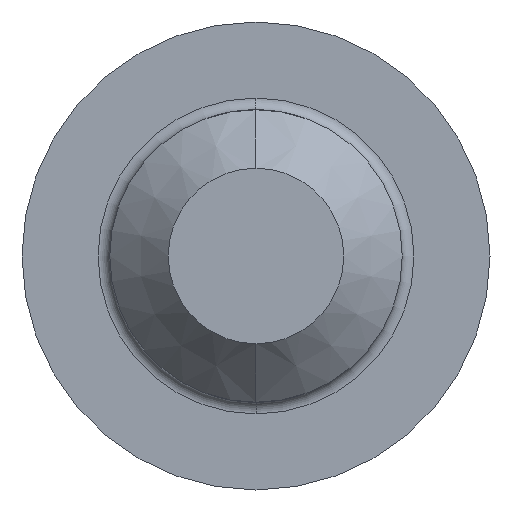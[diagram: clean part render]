
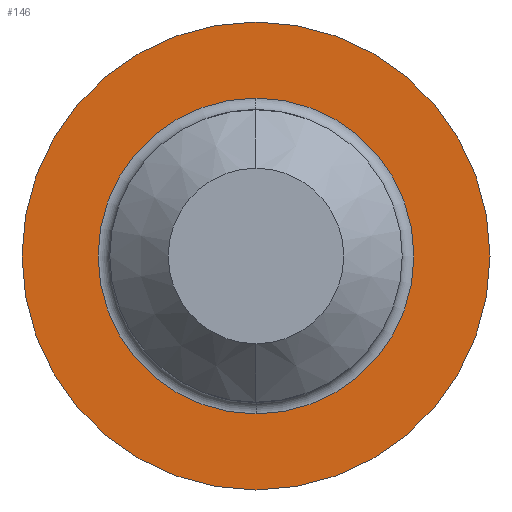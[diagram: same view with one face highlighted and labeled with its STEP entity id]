
A CAD part, left-side view. The second image highlights one B-rep face of the part: STEP entity #146.
In plain terms, the highlighted planar face has unit normal (-1, 0, 0).
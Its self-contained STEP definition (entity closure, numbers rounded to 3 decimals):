
#18 = EDGE_CURVE ( 'NONE', #91, #98, #155, .T. ) ;
#30 = EDGE_LOOP ( 'NONE', ( #50, #139 ) ) ;
#47 = EDGE_LOOP ( 'NONE', ( #68, #147 ) ) ;
#50 = ORIENTED_EDGE ( 'NONE', *, *, #151, .T. ) ;
#67 = VERTEX_POINT ( 'NONE', #363 ) ;
#68 = ORIENTED_EDGE ( 'NONE', *, *, #148, .T. ) ;
#91 = VERTEX_POINT ( 'NONE', #315 ) ;
#98 = VERTEX_POINT ( 'NONE', #299 ) ;
#132 = EDGE_CURVE ( 'NONE', #67, #150, #460, .T. ) ;
#139 = ORIENTED_EDGE ( 'NONE', *, *, #132, .T. ) ;
#146 = ADVANCED_FACE ( 'NONE', ( #412, #384 ), #451, .F. ) ;
#147 = ORIENTED_EDGE ( 'NONE', *, *, #18, .T. ) ;
#148 = EDGE_CURVE ( 'NONE', #98, #91, #391, .T. ) ;
#150 = VERTEX_POINT ( 'NONE', #392 ) ;
#151 = EDGE_CURVE ( 'NONE', #150, #67, #413, .T. ) ;
#155 = CIRCLE ( 'NONE', #257, 2.7 ) ;
#218 = DIRECTION ( 'NONE',  ( 0., 0., -1. ) ) ;
#219 = DIRECTION ( 'NONE',  ( 1., 0., 0. ) ) ;
#246 = CARTESIAN_POINT ( 'NONE',  ( 0., 0., 0. ) ) ;
#257 = AXIS2_PLACEMENT_3D ( 'NONE', #246, #219, #218 ) ;
#299 = CARTESIAN_POINT ( 'NONE',  ( 0., 0., -2.7 ) ) ;
#315 = CARTESIAN_POINT ( 'NONE',  ( 0., 0., 2.7 ) ) ;
#363 = CARTESIAN_POINT ( 'NONE',  ( 0., 0., -4. ) ) ;
#372 = DIRECTION ( 'NONE',  ( 0., 0., 1. ) ) ;
#373 = DIRECTION ( 'NONE',  ( -1., 0., 0. ) ) ;
#374 = AXIS2_PLACEMENT_3D ( 'NONE', #443, #373, #372 ) ;
#384 = FACE_OUTER_BOUND ( 'NONE', #30, .T. ) ;
#389 = CARTESIAN_POINT ( 'NONE',  ( 0., 0., 0. ) ) ;
#390 = DIRECTION ( 'NONE',  ( 0., 0., -1. ) ) ;
#391 = CIRCLE ( 'NONE', #450, 2.7 ) ;
#392 = CARTESIAN_POINT ( 'NONE',  ( 0., 0., 4. ) ) ;
#407 = DIRECTION ( 'NONE',  ( 0., 0., -1. ) ) ;
#408 = DIRECTION ( 'NONE',  ( 1., 0., 0. ) ) ;
#409 = CARTESIAN_POINT ( 'NONE',  ( 0., 0., 0. ) ) ;
#412 = FACE_BOUND ( 'NONE', #47, .T. ) ;
#413 = CIRCLE ( 'NONE', #424, 4. ) ;
#418 = DIRECTION ( 'NONE',  ( 1., 0., 0. ) ) ;
#419 = CARTESIAN_POINT ( 'NONE',  ( 0., 4., 0. ) ) ;
#422 = DIRECTION ( 'NONE',  ( 0., 0., 1. ) ) ;
#423 = DIRECTION ( 'NONE',  ( -1., 0., 0. ) ) ;
#424 = AXIS2_PLACEMENT_3D ( 'NONE', #389, #423, #422 ) ;
#443 = CARTESIAN_POINT ( 'NONE',  ( 0., 0., 0. ) ) ;
#450 = AXIS2_PLACEMENT_3D ( 'NONE', #409, #408, #407 ) ;
#451 = PLANE ( 'NONE',  #458 ) ;
#458 = AXIS2_PLACEMENT_3D ( 'NONE', #419, #418, #390 ) ;
#460 = CIRCLE ( 'NONE', #374, 4. ) ;
